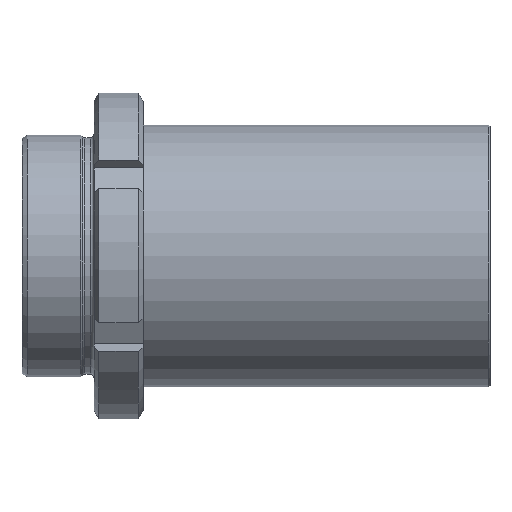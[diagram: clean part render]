
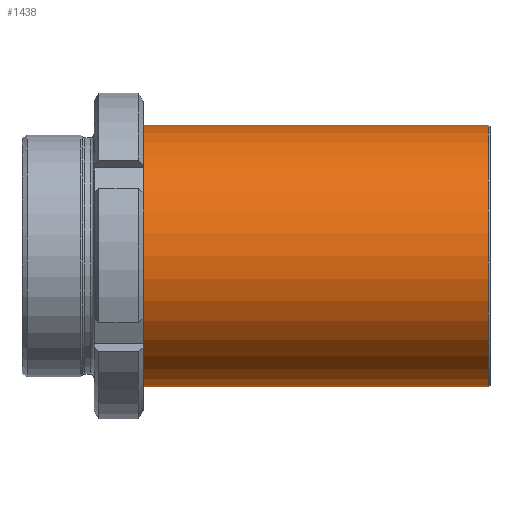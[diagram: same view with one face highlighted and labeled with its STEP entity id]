
A CAD part, top view. The second image highlights one B-rep face of the part: STEP entity #1438.
In plain terms, the highlighted cylindrical face has radius 40 mm (diameter 80 mm), a partial arc.
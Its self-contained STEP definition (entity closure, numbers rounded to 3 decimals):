
#24 = CARTESIAN_POINT ( 'NONE',  ( 143., 40., 0. ) ) ;
#94 = VERTEX_POINT ( 'NONE', #764 ) ;
#102 = FACE_OUTER_BOUND ( 'NONE', #862, .T. ) ;
#119 = LINE ( 'NONE', #1241, #134 ) ;
#134 = VECTOR ( 'NONE', #652, 1000. ) ;
#135 = VERTEX_POINT ( 'NONE', #1239 ) ;
#206 = AXIS2_PLACEMENT_3D ( 'NONE', #1947, #1629, #1463 ) ;
#215 = DIRECTION ( 'NONE',  ( 1., 0., 0. ) ) ;
#335 = ORIENTED_EDGE ( 'NONE', *, *, #1458, .T. ) ;
#352 = CIRCLE ( 'NONE', #2055, 40. ) ;
#395 = CYLINDRICAL_SURFACE ( 'NONE', #1872, 40. ) ;
#519 = EDGE_CURVE ( 'NONE', #94, #1869, #1576, .T. ) ;
#652 = DIRECTION ( 'NONE',  ( 1., 0., 0. ) ) ;
#674 = LINE ( 'NONE', #24, #681 ) ;
#681 = VECTOR ( 'NONE', #215, 1000. ) ;
#742 = DIRECTION ( 'NONE',  ( 1., 0., 0. ) ) ;
#764 = CARTESIAN_POINT ( 'NONE',  ( 37., 40., 0. ) ) ;
#862 = EDGE_LOOP ( 'NONE', ( #1568, #1108, #335, #898 ) ) ;
#874 = DIRECTION ( 'NONE',  ( 0., 1., 0. ) ) ;
#892 = CARTESIAN_POINT ( 'NONE',  ( 143., 0., 0. ) ) ;
#898 = ORIENTED_EDGE ( 'NONE', *, *, #1950, .F. ) ;
#1108 = ORIENTED_EDGE ( 'NONE', *, *, #1366, .T. ) ;
#1239 = CARTESIAN_POINT ( 'NONE',  ( 142.5, -40., 0. ) ) ;
#1241 = CARTESIAN_POINT ( 'NONE',  ( 143., -40., 0. ) ) ;
#1322 = CARTESIAN_POINT ( 'NONE',  ( 142.5, 0., 0. ) ) ;
#1327 = DIRECTION ( 'NONE',  ( -1., 0., 0. ) ) ;
#1334 = DIRECTION ( 'NONE',  ( 0., 1., 0. ) ) ;
#1365 = CARTESIAN_POINT ( 'NONE',  ( 142.5, 40., 0. ) ) ;
#1366 = EDGE_CURVE ( 'NONE', #1869, #135, #119, .T. ) ;
#1420 = CARTESIAN_POINT ( 'NONE',  ( 37., -40., 0. ) ) ;
#1438 = ADVANCED_FACE ( 'NONE', ( #102 ), #395, .T. ) ;
#1458 = EDGE_CURVE ( 'NONE', #135, #1737, #352, .T. ) ;
#1463 = DIRECTION ( 'NONE',  ( 0., 1., 0. ) ) ;
#1568 = ORIENTED_EDGE ( 'NONE', *, *, #519, .T. ) ;
#1576 = CIRCLE ( 'NONE', #206, 40. ) ;
#1629 = DIRECTION ( 'NONE',  ( 1., 0., 0. ) ) ;
#1737 = VERTEX_POINT ( 'NONE', #1365 ) ;
#1869 = VERTEX_POINT ( 'NONE', #1420 ) ;
#1872 = AXIS2_PLACEMENT_3D ( 'NONE', #892, #742, #874 ) ;
#1947 = CARTESIAN_POINT ( 'NONE',  ( 37., 0., 0. ) ) ;
#1950 = EDGE_CURVE ( 'NONE', #94, #1737, #674, .T. ) ;
#2055 = AXIS2_PLACEMENT_3D ( 'NONE', #1322, #1327, #1334 ) ;
